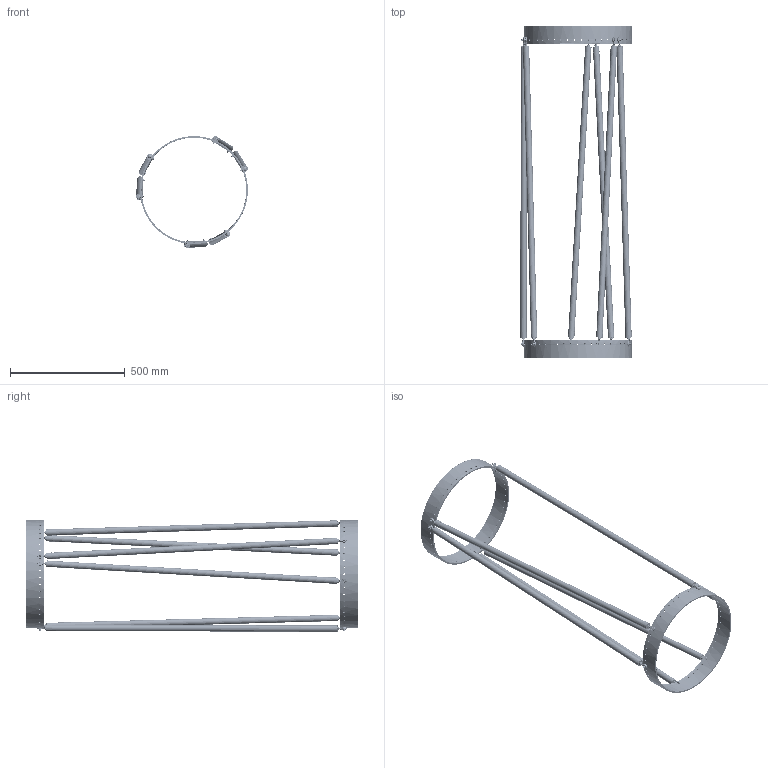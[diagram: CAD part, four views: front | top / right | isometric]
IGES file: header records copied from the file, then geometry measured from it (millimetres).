
Start section: SolidWorks IGES file using analytic representation for surfaces
Global section: file name: \\SERVER3\Design\_New Design Drive Folder List\_Design Vault\AAI\Modular Round Tube Connectors\Solidworks Models\Demonstrations\31. Drum\Telescope Structure.IGS; native system: SolidWorks 2013; preprocessor: SolidWorks 2013; author: tbraun; date: 131223.161723; units: inch
Bounding box: 486.84 x 1445.5 x 486.84 mm (x, y, z)
Surface area: 1911947.7 mm2 (no closed solid volume)
Topology: 0 solids, 0 shells, 4200 faces, 75812 edges, 75788 vertices
Faces by surface type: revolution 3500, bspline 700
